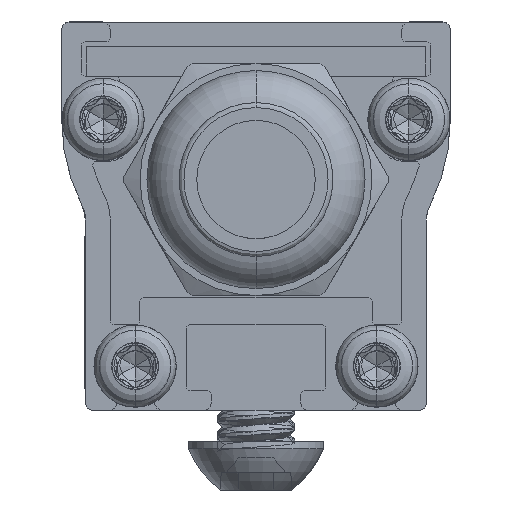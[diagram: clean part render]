
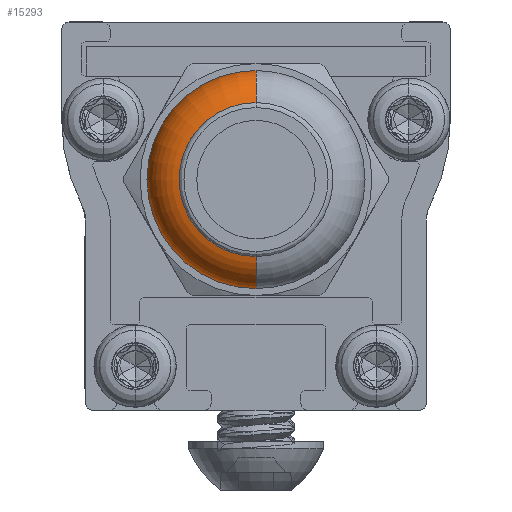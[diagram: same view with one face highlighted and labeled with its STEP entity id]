
A CAD part, left-side view. The second image highlights one B-rep face of the part: STEP entity #15293.
In plain terms, the highlighted toroidal (fillet/blend) face has major radius 3.518 mm and minor radius 2.095 mm.
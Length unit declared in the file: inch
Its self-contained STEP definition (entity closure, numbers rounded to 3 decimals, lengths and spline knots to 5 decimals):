
#705 = VERTEX_POINT ( 'NONE', #16205 ) ;
#719 = CIRCLE ( 'NONE', #23777, 0.0825 ) ;
#743 = DIRECTION ( 'NONE',  ( 0., 0., 1. ) ) ;
#924 = EDGE_LOOP ( 'NONE', ( #22017, #17878, #18399, #21318 ) ) ;
#1314 = EDGE_CURVE ( 'NONE', #19478, #705, #3968, .T. ) ;
#1393 = DIRECTION ( 'NONE',  ( 0., 0., -1. ) ) ;
#2379 = FACE_OUTER_BOUND ( 'NONE', #924, .T. ) ;
#3226 = DIRECTION ( 'NONE',  ( 1., 0., 0. ) ) ;
#3440 = AXIS2_PLACEMENT_3D ( 'NONE', #9062, #9596, #11952 ) ;
#3968 = CIRCLE ( 'NONE', #13818, 0.0825 ) ;
#6136 = DIRECTION ( 'NONE',  ( 0., -1., 0. ) ) ;
#7187 = CIRCLE ( 'NONE', #3440, 0.156 ) ;
#9062 = CARTESIAN_POINT ( 'NONE',  ( -0.395, 0., 0. ) ) ;
#9324 = EDGE_CURVE ( 'NONE', #15237, #705, #7187, .T. ) ;
#9596 = DIRECTION ( 'NONE',  ( -1., 0., 0. ) ) ;
#11080 = DIRECTION ( 'NONE',  ( 0., 1., 0. ) ) ;
#11952 = DIRECTION ( 'NONE',  ( 0., 0., 1. ) ) ;
#12794 = TOROIDAL_SURFACE ( 'NONE', #27540, 0.13852, 0.0825 ) ;
#13349 = DIRECTION ( 'NONE',  ( 0., 0., 1. ) ) ;
#13353 = CARTESIAN_POINT ( 'NONE',  ( -0.31437, 0., 0. ) ) ;
#13818 = AXIS2_PLACEMENT_3D ( 'NONE', #15847, #11080, #13349 ) ;
#14611 = EDGE_CURVE ( 'NONE', #19478, #21600, #25576, .T. ) ;
#15237 = VERTEX_POINT ( 'NONE', #24760 ) ;
#15293 = ADVANCED_FACE ( 'NONE', ( #2379 ), #12794, .T. ) ;
#15527 = CARTESIAN_POINT ( 'NONE',  ( -0.31437, 0., 0.13852 ) ) ;
#15847 = CARTESIAN_POINT ( 'NONE',  ( -0.31437, 0., -0.13852 ) ) ;
#16205 = CARTESIAN_POINT ( 'NONE',  ( -0.395, 0., -0.156 ) ) ;
#17878 = ORIENTED_EDGE ( 'NONE', *, *, #1314, .T. ) ;
#18399 = ORIENTED_EDGE ( 'NONE', *, *, #9324, .F. ) ;
#19478 = VERTEX_POINT ( 'NONE', #24364 ) ;
#21318 = ORIENTED_EDGE ( 'NONE', *, *, #29675, .F. ) ;
#21600 = VERTEX_POINT ( 'NONE', #22302 ) ;
#22017 = ORIENTED_EDGE ( 'NONE', *, *, #14611, .F. ) ;
#22302 = CARTESIAN_POINT ( 'NONE',  ( -0.31437, 0., 0.22102 ) ) ;
#23777 = AXIS2_PLACEMENT_3D ( 'NONE', #15527, #6136, #1393 ) ;
#24364 = CARTESIAN_POINT ( 'NONE',  ( -0.31437, 0., -0.22102 ) ) ;
#24760 = CARTESIAN_POINT ( 'NONE',  ( -0.395, 0., 0.156 ) ) ;
#25576 = CIRCLE ( 'NONE', #29943, 0.22102 ) ;
#25590 = DIRECTION ( 'NONE',  ( 0., 0., 1. ) ) ;
#27540 = AXIS2_PLACEMENT_3D ( 'NONE', #13353, #30070, #25590 ) ;
#29501 = CARTESIAN_POINT ( 'NONE',  ( -0.31437, 0., 0. ) ) ;
#29675 = EDGE_CURVE ( 'NONE', #21600, #15237, #719, .T. ) ;
#29943 = AXIS2_PLACEMENT_3D ( 'NONE', #29501, #3226, #743 ) ;
#30070 = DIRECTION ( 'NONE',  ( -1., 0., 0. ) ) ;
